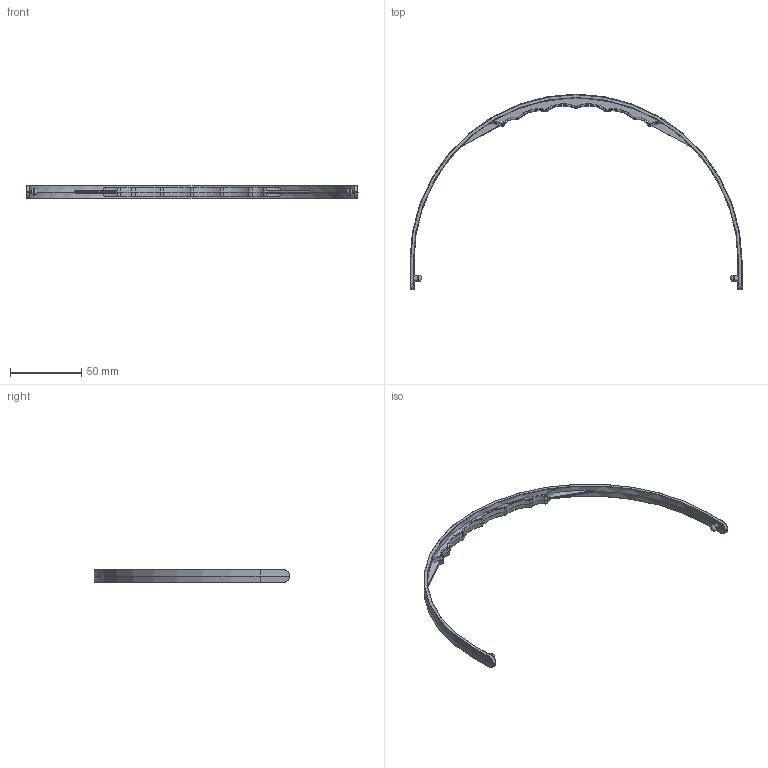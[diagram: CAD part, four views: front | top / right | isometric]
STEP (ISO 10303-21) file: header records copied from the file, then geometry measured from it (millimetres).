
FILE_DESCRIPTION(('STEP AP203'), '1');
FILE_NAME('Ðó÷êà 5ë.', '', ('UNSPECIFIED'), ('UNSPECIFIED'), 'C3D Converter', 'C3D Toolkit', '');
FILE_SCHEMA(('CONFIG_CONTROL_DESIGN'));
Length unit declared in the file: millimetre
Products named in the file (1): 171.13-00-03
Bounding box: 233.73 x 137.79 x 9 mm (x, y, z)
Volume: 11921 mm3; surface area: 12176.1 mm2
Topology: 1 solids, 1 shells, 224 faces, 540 edges, 318 vertices
Faces by surface type: cone 68, torus 68, plane 44, cylinder 34, bspline 8, sphere 2
Full cylindrical faces by diameter (mm): 3.7 x2, 4.704 x2
Entity records: 8464 total; most frequent: CARTESIAN_POINT 2434, DIRECTION 1166, ORIENTED_EDGE 1064, EDGE_CURVE 532, AXIS2_PLACEMENT_3D 501, VERTEX_POINT 316, CIRCLE 284, EDGE_LOOP 230
